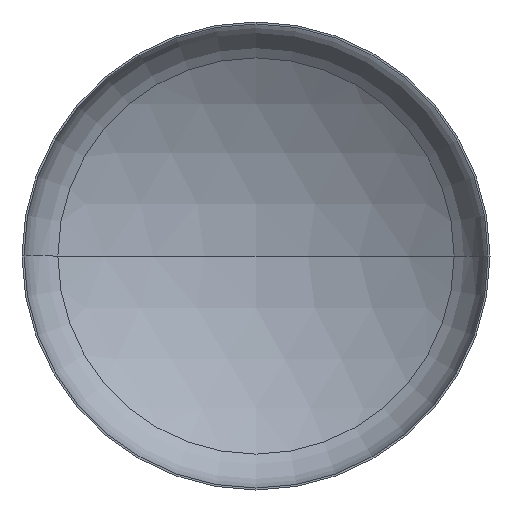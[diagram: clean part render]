
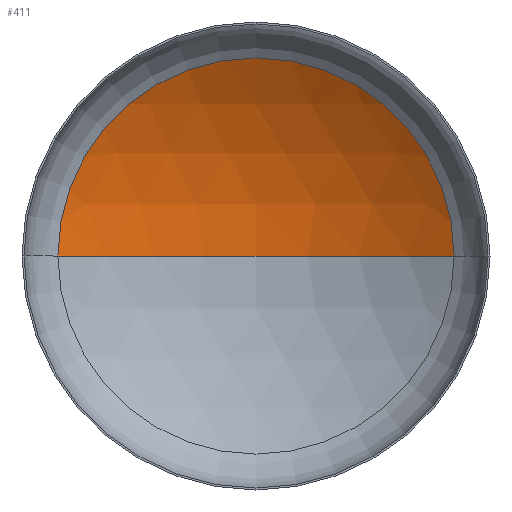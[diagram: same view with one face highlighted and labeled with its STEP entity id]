
A CAD part, front view. The second image highlights one B-rep face of the part: STEP entity #411.
In plain terms, the highlighted spherical face has radius 4000 mm.
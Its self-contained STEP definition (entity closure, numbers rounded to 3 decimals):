
#24 = EDGE_LOOP ( 'NONE', ( #65, #45, #224 ) ) ;
#45 = ORIENTED_EDGE ( 'NONE', *, *, #177, .T. ) ;
#49 = AXIS2_PLACEMENT_3D ( 'NONE', #250, #248, #247 ) ;
#54 = CIRCLE ( 'NONE', #56, 4000. ) ;
#56 = AXIS2_PLACEMENT_3D ( 'NONE', #195, #218, #220 ) ;
#60 = AXIS2_PLACEMENT_3D ( 'NONE', #198, #119, #403 ) ;
#64 = SPHERICAL_SURFACE ( 'NONE', #337, 4000. ) ;
#65 = ORIENTED_EDGE ( 'NONE', *, *, #192, .F. ) ;
#119 = DIRECTION ( 'NONE',  ( 0., -1., 0. ) ) ;
#140 = VERTEX_POINT ( 'NONE', #368 ) ;
#148 = VERTEX_POINT ( 'NONE', #225 ) ;
#153 = VERTEX_POINT ( 'NONE', #206 ) ;
#168 = EDGE_CURVE ( 'NONE', #153, #140, #315, .T. ) ;
#177 = EDGE_CURVE ( 'NONE', #148, #153, #54, .T. ) ;
#189 = DIRECTION ( 'NONE',  ( 0., 0., -1. ) ) ;
#192 = EDGE_CURVE ( 'NONE', #148, #140, #256, .T. ) ;
#195 = CARTESIAN_POINT ( 'NONE',  ( 0., -2670.843, 0. ) ) ;
#198 = CARTESIAN_POINT ( 'NONE',  ( 0., 723.39, 0. ) ) ;
#206 = CARTESIAN_POINT ( 'NONE',  ( 2116.409, 723.39, 0. ) ) ;
#207 = DIRECTION ( 'NONE',  ( -1., 0., 0. ) ) ;
#218 = DIRECTION ( 'NONE',  ( 0., 0., -1. ) ) ;
#220 = DIRECTION ( 'NONE',  ( -1., 0., 0. ) ) ;
#224 = ORIENTED_EDGE ( 'NONE', *, *, #168, .T. ) ;
#225 = CARTESIAN_POINT ( 'NONE',  ( 0., 1329.157, 0. ) ) ;
#247 = DIRECTION ( 'NONE',  ( 1., 0., 0. ) ) ;
#248 = DIRECTION ( 'NONE',  ( 0., 0., 1. ) ) ;
#250 = CARTESIAN_POINT ( 'NONE',  ( 0., -2670.843, 0. ) ) ;
#256 = CIRCLE ( 'NONE', #49, 4000. ) ;
#266 = FACE_OUTER_BOUND ( 'NONE', #24, .T. ) ;
#315 = CIRCLE ( 'NONE', #60, 2116.409 ) ;
#337 = AXIS2_PLACEMENT_3D ( 'NONE', #390, #189, #207 ) ;
#368 = CARTESIAN_POINT ( 'NONE',  ( -2116.409, 723.39, 0. ) ) ;
#390 = CARTESIAN_POINT ( 'NONE',  ( 0., -2670.843, 0. ) ) ;
#403 = DIRECTION ( 'NONE',  ( 1., 0., 0. ) ) ;
#411 = ADVANCED_FACE ( 'NONE', ( #266 ), #64, .F. ) ;
